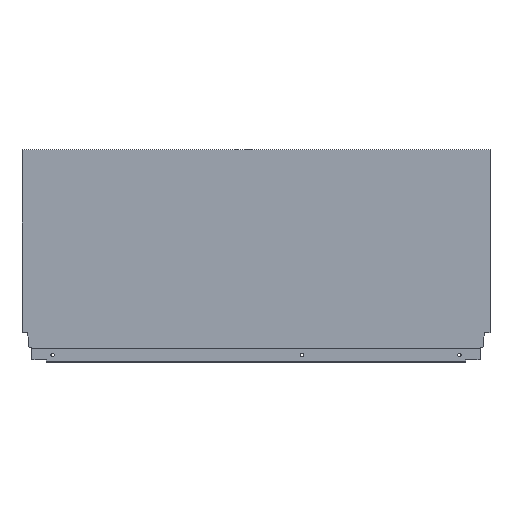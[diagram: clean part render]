
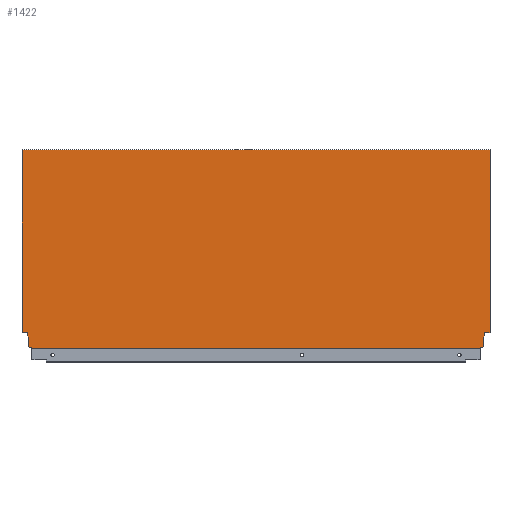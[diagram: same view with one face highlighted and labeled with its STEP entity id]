
A CAD part, top view. The second image highlights one B-rep face of the part: STEP entity #1422.
In plain terms, the highlighted planar face has unit normal (0, 0, 1).
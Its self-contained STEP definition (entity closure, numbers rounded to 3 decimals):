
#353 = LINE ( 'NONE', #1170, #376 ) ;
#355 = VECTOR ( 'NONE', #1104, 1000. ) ;
#358 = LINE ( 'NONE', #1174, #359 ) ;
#359 = VECTOR ( 'NONE', #1173, 1000. ) ;
#361 = LINE ( 'NONE', #1105, #355 ) ;
#362 = LINE ( 'NONE', #1166, #363 ) ;
#363 = VECTOR ( 'NONE', #1163, 1000. ) ;
#366 = LINE ( 'NONE', #1155, #367 ) ;
#367 = VECTOR ( 'NONE', #1152, 1000. ) ;
#368 = LINE ( 'NONE', #1148, #369 ) ;
#369 = VECTOR ( 'NONE', #1147, 1000. ) ;
#370 = LINE ( 'NONE', #1144, #371 ) ;
#371 = VECTOR ( 'NONE', #1143, 1000. ) ;
#372 = LINE ( 'NONE', #1139, #373 ) ;
#373 = VECTOR ( 'NONE', #1136, 1000. ) ;
#374 = LINE ( 'NONE', #1134, #375 ) ;
#375 = VECTOR ( 'NONE', #1133, 1000. ) ;
#376 = VECTOR ( 'NONE', #1130, 1000. ) ;
#378 = LINE ( 'NONE', #1128, #379 ) ;
#379 = VECTOR ( 'NONE', #1125, 1000. ) ;
#380 = LINE ( 'NONE', #1124, #381 ) ;
#381 = VECTOR ( 'NONE', #1123, 1000. ) ;
#382 = LINE ( 'NONE', #1121, #383 ) ;
#383 = VECTOR ( 'NONE', #1119, 1000. ) ;
#384 = LINE ( 'NONE', #1117, #385 ) ;
#385 = VECTOR ( 'NONE', #1116, 1000. ) ;
#386 = LINE ( 'NONE', #1115, #387 ) ;
#387 = VECTOR ( 'NONE', #1113, 1000. ) ;
#419 = FACE_OUTER_BOUND ( 'NONE', #802, .T. ) ;
#588 = EDGE_CURVE ( 'NONE', #1219, #1250, #358, .T. ) ;
#590 = EDGE_CURVE ( 'NONE', #1212, #1197, #362, .T. ) ;
#592 = EDGE_CURVE ( 'NONE', #1197, #1168, #366, .T. ) ;
#593 = EDGE_CURVE ( 'NONE', #1250, #1212, #368, .T. ) ;
#594 = EDGE_CURVE ( 'NONE', #1168, #1280, #370, .T. ) ;
#595 = EDGE_CURVE ( 'NONE', #1280, #1236, #372, .T. ) ;
#596 = EDGE_CURVE ( 'NONE', #1219, #1237, #374, .T. ) ;
#597 = EDGE_CURVE ( 'NONE', #1236, #1230, #353, .T. ) ;
#598 = EDGE_CURVE ( 'NONE', #1189, #1157, #378, .T. ) ;
#599 = EDGE_CURVE ( 'NONE', #1157, #1177, #380, .T. ) ;
#600 = EDGE_CURVE ( 'NONE', #1177, #1276, #382, .T. ) ;
#601 = EDGE_CURVE ( 'NONE', #1276, #1237, #384, .T. ) ;
#602 = EDGE_CURVE ( 'NONE', #1224, #1230, #386, .T. ) ;
#605 = EDGE_CURVE ( 'NONE', #1224, #1189, #361, .T. ) ;
#636 = AXIS2_PLACEMENT_3D ( 'NONE', #925, #916, #915 ) ;
#802 = EDGE_LOOP ( 'NONE', ( #874, #875, #876, #877, #878, #879, #880, #881, #882, #883, #884, #885, #886, #887 ) ) ;
#874 = ORIENTED_EDGE ( 'NONE', *, *, #596, .T. ) ;
#875 = ORIENTED_EDGE ( 'NONE', *, *, #601, .F. ) ;
#876 = ORIENTED_EDGE ( 'NONE', *, *, #600, .F. ) ;
#877 = ORIENTED_EDGE ( 'NONE', *, *, #599, .F. ) ;
#878 = ORIENTED_EDGE ( 'NONE', *, *, #598, .F. ) ;
#879 = ORIENTED_EDGE ( 'NONE', *, *, #605, .F. ) ;
#880 = ORIENTED_EDGE ( 'NONE', *, *, #602, .T. ) ;
#881 = ORIENTED_EDGE ( 'NONE', *, *, #597, .F. ) ;
#882 = ORIENTED_EDGE ( 'NONE', *, *, #595, .F. ) ;
#883 = ORIENTED_EDGE ( 'NONE', *, *, #594, .F. ) ;
#884 = ORIENTED_EDGE ( 'NONE', *, *, #592, .F. ) ;
#885 = ORIENTED_EDGE ( 'NONE', *, *, #590, .F. ) ;
#886 = ORIENTED_EDGE ( 'NONE', *, *, #593, .F. ) ;
#887 = ORIENTED_EDGE ( 'NONE', *, *, #588, .F. ) ;
#915 = DIRECTION ( 'NONE',  ( 1., 0., 0. ) ) ;
#916 = DIRECTION ( 'NONE',  ( 0., 0., 1. ) ) ;
#925 = CARTESIAN_POINT ( 'NONE',  ( -613., 0., 8. ) ) ;
#929 = PLANE ( 'NONE',  #636 ) ;
#975 = CARTESIAN_POINT ( 'NONE',  ( -8.9, 2.64, 8. ) ) ;
#978 = CARTESIAN_POINT ( 'NONE',  ( -605.94, 21.2, 8. ) ) ;
#992 = CARTESIAN_POINT ( 'NONE',  ( 0., 260.7, 8. ) ) ;
#998 = CARTESIAN_POINT ( 'NONE',  ( -613., 21.2, 8. ) ) ;
#1000 = CARTESIAN_POINT ( 'NONE',  ( -13.004, 1.146, 8. ) ) ;
#1004 = CARTESIAN_POINT ( 'NONE',  ( -13.004, 0., 8. ) ) ;
#1011 = CARTESIAN_POINT ( 'NONE',  ( -599.996, 0., 8. ) ) ;
#1015 = CARTESIAN_POINT ( 'NONE',  ( -613., 260.7, 8. ) ) ;
#1019 = CARTESIAN_POINT ( 'NONE',  ( 0., 21.2, 8. ) ) ;
#1029 = CARTESIAN_POINT ( 'NONE',  ( -7.06, 21.2, 8. ) ) ;
#1035 = CARTESIAN_POINT ( 'NONE',  ( -599.996, 1.146, 8. ) ) ;
#1043 = CARTESIAN_POINT ( 'NONE',  ( -604.1, 10.765, 8. ) ) ;
#1046 = CARTESIAN_POINT ( 'NONE',  ( -8.9, 10.765, 8. ) ) ;
#1055 = CARTESIAN_POINT ( 'NONE',  ( -604.1, 2.64, 8. ) ) ;
#1104 = DIRECTION ( 'NONE',  ( 0., 1., 0. ) ) ;
#1105 = CARTESIAN_POINT ( 'NONE',  ( -599.996, 1.146, 8. ) ) ;
#1113 = DIRECTION ( 'NONE',  ( 1., 0., 0. ) ) ;
#1115 = CARTESIAN_POINT ( 'NONE',  ( -613., 0., 8. ) ) ;
#1116 = DIRECTION ( 'NONE',  ( -1., 0., 0. ) ) ;
#1117 = CARTESIAN_POINT ( 'NONE',  ( -618., 21.2, 8. ) ) ;
#1119 = DIRECTION ( 'NONE',  ( -0.174, 0.985, 0. ) ) ;
#1121 = CARTESIAN_POINT ( 'NONE',  ( -605.94, 21.2, 8. ) ) ;
#1123 = DIRECTION ( 'NONE',  ( 0., 1., 0. ) ) ;
#1124 = CARTESIAN_POINT ( 'NONE',  ( -604.1, 10.765, 8. ) ) ;
#1125 = DIRECTION ( 'NONE',  ( -0.94, 0.342, 0. ) ) ;
#1128 = CARTESIAN_POINT ( 'NONE',  ( -604.1, 2.64, 8. ) ) ;
#1130 = DIRECTION ( 'NONE',  ( 0., -1., 0. ) ) ;
#1133 = DIRECTION ( 'NONE',  ( 0., -1., 0. ) ) ;
#1134 = CARTESIAN_POINT ( 'NONE',  ( -613., 0., 8. ) ) ;
#1136 = DIRECTION ( 'NONE',  ( -0.94, -0.342, 0. ) ) ;
#1139 = CARTESIAN_POINT ( 'NONE',  ( -8.9, 2.64, 8. ) ) ;
#1143 = DIRECTION ( 'NONE',  ( 0., -1., 0. ) ) ;
#1144 = CARTESIAN_POINT ( 'NONE',  ( -8.9, 10.765, 8. ) ) ;
#1147 = DIRECTION ( 'NONE',  ( 0., -1., 0. ) ) ;
#1148 = CARTESIAN_POINT ( 'NONE',  ( 0., 0., 8. ) ) ;
#1152 = DIRECTION ( 'NONE',  ( -0.174, -0.985, 0. ) ) ;
#1155 = CARTESIAN_POINT ( 'NONE',  ( -7.06, 21.2, 8. ) ) ;
#1157 = VERTEX_POINT ( 'NONE', #1055 ) ;
#1163 = DIRECTION ( 'NONE',  ( -1., 0., 0. ) ) ;
#1166 = CARTESIAN_POINT ( 'NONE',  ( 0., 21.2, 8. ) ) ;
#1168 = VERTEX_POINT ( 'NONE', #1046 ) ;
#1170 = CARTESIAN_POINT ( 'NONE',  ( -13.004, 1.146, 8. ) ) ;
#1173 = DIRECTION ( 'NONE',  ( 1., 0., 0. ) ) ;
#1174 = CARTESIAN_POINT ( 'NONE',  ( -613., 260.7, 8. ) ) ;
#1177 = VERTEX_POINT ( 'NONE', #1043 ) ;
#1189 = VERTEX_POINT ( 'NONE', #1035 ) ;
#1197 = VERTEX_POINT ( 'NONE', #1029 ) ;
#1212 = VERTEX_POINT ( 'NONE', #1019 ) ;
#1219 = VERTEX_POINT ( 'NONE', #1015 ) ;
#1224 = VERTEX_POINT ( 'NONE', #1011 ) ;
#1230 = VERTEX_POINT ( 'NONE', #1004 ) ;
#1236 = VERTEX_POINT ( 'NONE', #1000 ) ;
#1237 = VERTEX_POINT ( 'NONE', #998 ) ;
#1250 = VERTEX_POINT ( 'NONE', #992 ) ;
#1276 = VERTEX_POINT ( 'NONE', #978 ) ;
#1280 = VERTEX_POINT ( 'NONE', #975 ) ;
#1422 = ADVANCED_FACE ( 'NONE', ( #419 ), #929, .T. ) ;
